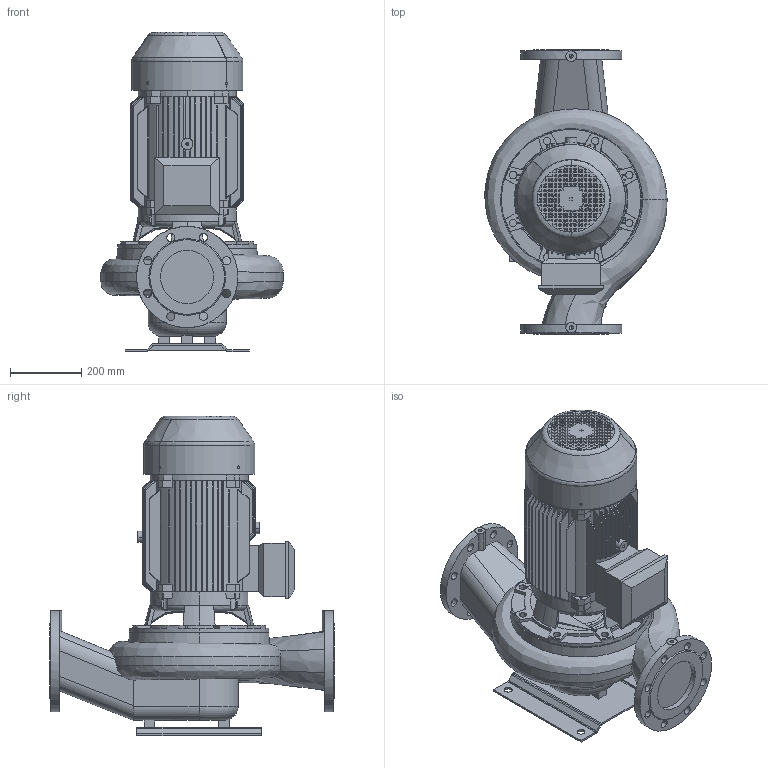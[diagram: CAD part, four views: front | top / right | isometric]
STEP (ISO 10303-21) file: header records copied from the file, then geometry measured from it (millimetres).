
FILE_DESCRIPTION(('STEP AP214'),'1');
FILE_NAME('export.stp','2018-05-28T10:48:44',(' '),(' '),'Spatial InterOp 3D',' ',' ');
FILE_SCHEMA(('AUTOMOTIVE_DESIGN { 1 0 10303 214 1 1 1 1 }'));
Length unit declared in the file: millimetre
Products named in the file (11): W_AL11544150KP166; V_TL110611291154; P100496; P100495; P100342; V_MKP166G2F31; R200366; R200574; R200573; R200587; V_PPAL1154
Assembly tree (11 placements, depth 3):
  W_AL11544150KP166
    V_TL110611291154
    P100496
      P100495  x2
      P100342
    V_MKP166G2F31
      R200366
      R200574
      R200573
      R200587
    V_PPAL1154
Bounding box: 512.88 x 800 x 898.5 mm (x, y, z)
Volume: 46340957.8 mm3; surface area: 3980463.2 mm2
Topology: 9 solids, 9 shells, 1854 faces, 5292 edges, 3456 vertices
Faces by surface type: plane 1232, cylinder 350, cone 188, torus 50, bspline 34
Entity records: 83800 total; most frequent: CARTESIAN_POINT 18578, ORIENTED_EDGE 10540, DIRECTION 9368, EDGE_CURVE 5270, LINE 3474, VECTOR 3474, VERTEX_POINT 3448, AXIS2_PLACEMENT_3D 2947
